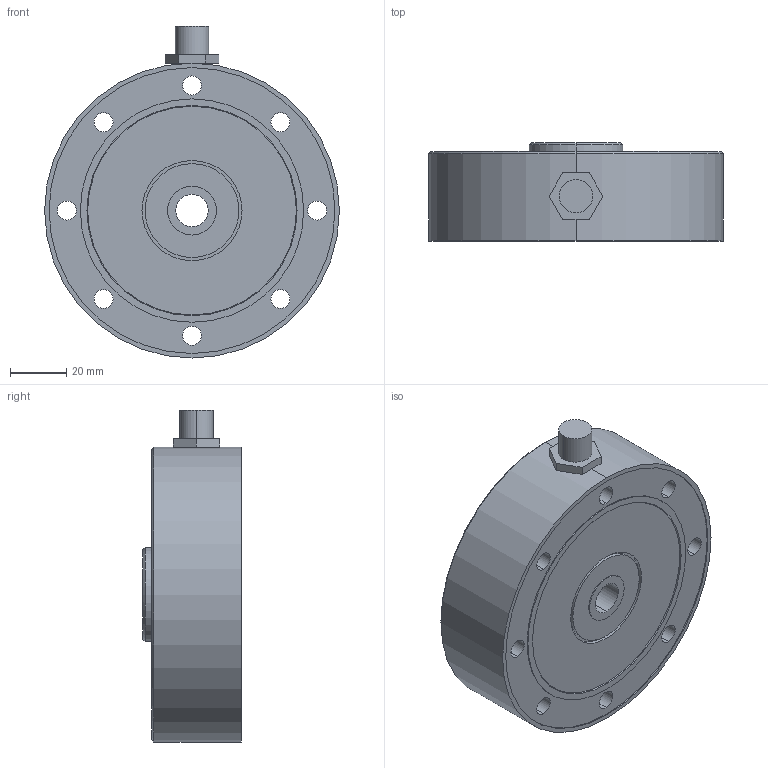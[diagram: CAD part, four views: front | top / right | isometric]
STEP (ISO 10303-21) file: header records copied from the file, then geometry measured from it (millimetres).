
FILE_DESCRIPTION (( 'STEP AP203' ), '1' );
FILE_NAME ('FINAL ASBY SS1385-5K.STEP', '2022-12-13T14:03:32', ( '' ), ( '' ), 'SwSTEP 2.0', 'SolidWorks 2008', '' );
FILE_SCHEMA (( 'CONFIG_CONTROL_DESIGN' ));
Length unit declared in the file: inch
Products named in the file (1): FINAL ASBY SS1385-5K
Bounding box: 104.78 x 34.92 x 117.98 mm (x, y, z)
Volume: 259942.9 mm3; surface area: 37311.8 mm2
Topology: 2 solids, 2 shells, 100 faces, 218 edges, 144 vertices
Faces by surface type: cylinder 64, plane 32, cone 4
Entity records: 2915 total; most frequent: DIRECTION 552, CARTESIAN_POINT 463, ORIENTED_EDGE 436, AXIS2_PLACEMENT_3D 233, EDGE_CURVE 218, VERTEX_POINT 144, EDGE_LOOP 140, CIRCLE 132
